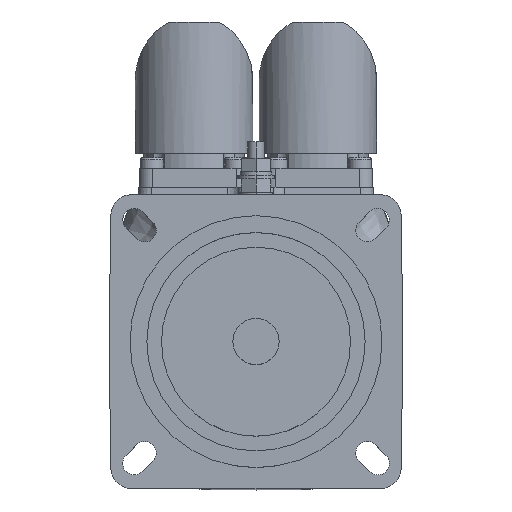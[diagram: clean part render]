
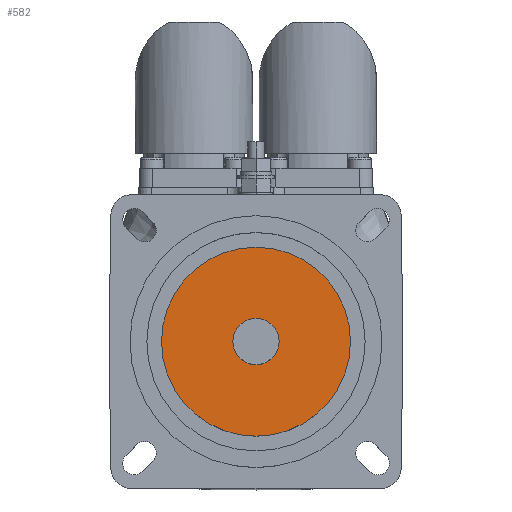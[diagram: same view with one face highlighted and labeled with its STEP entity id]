
A CAD part, top view. The second image highlights one B-rep face of the part: STEP entity #582.
In plain terms, the highlighted planar face has unit normal (0, 0, 1).
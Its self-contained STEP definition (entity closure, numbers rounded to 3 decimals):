
#163 = VERTEX_POINT ( 'NONE', #13127 ) ;
#164 = VERTEX_POINT ( 'NONE', #13128 ) ;
#177 = VERTEX_POINT ( 'NONE', #13141 ) ;
#178 = VERTEX_POINT ( 'NONE', #13142 ) ;
#582 = ADVANCED_FACE ( 'NONE', ( #903, #907 ), #14258, .T. ) ;
#903 = FACE_BOUND ( 'NONE', #12468, .T. ) ;
#907 = FACE_OUTER_BOUND ( 'NONE', #12463, .T. ) ;
#1328 = CIRCLE ( 'NONE', #14694, 5.5 ) ;
#1361 = CIRCLE ( 'NONE', #14698, 22.5 ) ;
#1601 = CIRCLE ( 'NONE', #14758, 5.5 ) ;
#1603 = CIRCLE ( 'NONE', #14760, 22.5 ) ;
#4394 = CARTESIAN_POINT ( 'NONE',  ( 0., 0., 7.5 ) ) ;
#4397 = DIRECTION ( 'NONE',  ( 0., 0., 1. ) ) ;
#4398 = DIRECTION ( 'NONE',  ( 1., 0., 0. ) ) ;
#4464 = CARTESIAN_POINT ( 'NONE',  ( 0., 0., 7.5 ) ) ;
#4465 = DIRECTION ( 'NONE',  ( 0., 0., 1. ) ) ;
#4466 = DIRECTION ( 'NONE',  ( 1., 0., 0. ) ) ;
#5105 = CARTESIAN_POINT ( 'NONE',  ( 0., 0., 7.5 ) ) ;
#5108 = CARTESIAN_POINT ( 'NONE',  ( 0., 0., 7.5 ) ) ;
#5110 = DIRECTION ( 'NONE',  ( 0., 0., 1. ) ) ;
#5111 = DIRECTION ( 'NONE',  ( 1., 0., 0. ) ) ;
#5113 = DIRECTION ( 'NONE',  ( 0., 0., 1. ) ) ;
#5114 = DIRECTION ( 'NONE',  ( 1., 0., 0. ) ) ;
#9816 = EDGE_CURVE ( 'NONE', #178, #177, #1328, .T. ) ;
#9839 = EDGE_CURVE ( 'NONE', #163, #164, #1361, .T. ) ;
#10029 = EDGE_CURVE ( 'NONE', #177, #178, #1601, .T. ) ;
#10030 = EDGE_CURVE ( 'NONE', #164, #163, #1603, .T. ) ;
#12016 = ORIENTED_EDGE ( 'NONE', *, *, #9816, .F. ) ;
#12017 = ORIENTED_EDGE ( 'NONE', *, *, #10029, .F. ) ;
#12018 = ORIENTED_EDGE ( 'NONE', *, *, #9839, .T. ) ;
#12019 = ORIENTED_EDGE ( 'NONE', *, *, #10030, .T. ) ;
#12463 = EDGE_LOOP ( 'NONE', ( #12018, #12019 ) ) ;
#12468 = EDGE_LOOP ( 'NONE', ( #12016, #12017 ) ) ;
#13127 = CARTESIAN_POINT ( 'NONE',  ( 22.5, 0., 7.5 ) ) ;
#13128 = CARTESIAN_POINT ( 'NONE',  ( -22.5, 0., 7.5 ) ) ;
#13141 = CARTESIAN_POINT ( 'NONE',  ( -5.5, 0., 7.5 ) ) ;
#13142 = CARTESIAN_POINT ( 'NONE',  ( 5.5, 0., 7.5 ) ) ;
#14257 = CARTESIAN_POINT ( 'NONE',  ( 0., 22.5, 7.5 ) ) ;
#14258 = PLANE ( 'NONE',  #14471 ) ;
#14259 = DIRECTION ( 'NONE',  ( 0., 0., 1. ) ) ;
#14260 = DIRECTION ( 'NONE',  ( 1., 0., 0. ) ) ;
#14471 = AXIS2_PLACEMENT_3D ( 'NONE', #14257, #14259, #14260 ) ;
#14694 = AXIS2_PLACEMENT_3D ( 'NONE', #4394, #4397, #4398 ) ;
#14698 = AXIS2_PLACEMENT_3D ( 'NONE', #4464, #4465, #4466 ) ;
#14758 = AXIS2_PLACEMENT_3D ( 'NONE', #5108, #5110, #5111 ) ;
#14760 = AXIS2_PLACEMENT_3D ( 'NONE', #5105, #5113, #5114 ) ;
